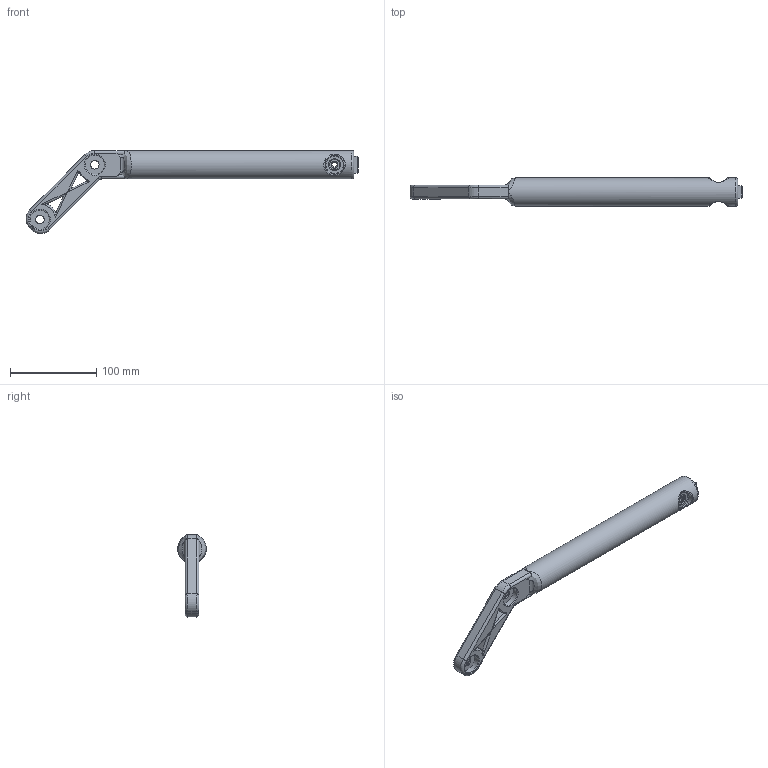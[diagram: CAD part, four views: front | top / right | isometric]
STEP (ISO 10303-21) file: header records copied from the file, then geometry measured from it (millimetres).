
FILE_DESCRIPTION(/* description */ ('STEP AP242 Edition 2','CAx-IF Rec.Pracs.---Representation and Presentation of Product Manufacturing Information (PMI)---4.0---2014-10-13','CAx-IF Rec.Pracs.---3D Tessellated Geometry---0.4---2014-09-14','2;1','CAx-IF Rec.Pracs.---User Defined Attributes---1.5---2016-08-15'),/* implementation_level */ '2;1');
FILE_NAME(/* name */ 'Tarok - Total Assemply - Lower Leg',/* time_stamp */ '2026-05-23T09:32:38Z',/* author */ (''),/* organization */ (''),/* preprocessor_version */ 'ST-DEVELOPER v20',/* originating_system */ 'ONSHAPE BY PTC INC, 1.215',/* authorisation */ ' ');
FILE_SCHEMA (('AP242_MANAGED_MODEL_BASED_3D_ENGINEERING_MIM_LF { 1 0 10303 442 3 1 4 }'));
Length unit declared in the file: metre
Products named in the file (1): Lower Leg
Bounding box: 384.64 x 33 x 96.14 mm (x, y, z)
Volume: 243711.1 mm3; surface area: 55546.7 mm2
Topology: 1 solids, 1 shells, 145 faces, 354 edges, 206 vertices
Faces by surface type: cylinder 55, plane 41, torus 23, bspline 20, cone 6
Full cylindrical faces by diameter (mm): 6 x2, 10 x2, 13 x1, 22.15 x4, 33 x1
Entity records: 5527 total; most frequent: CARTESIAN_POINT 2440, ORIENTED_EDGE 624, DIRECTION 613, EDGE_CURVE 312, AXIS2_PLACEMENT_3D 252, VERTEX_POINT 197, EDGE_LOOP 185, FACE_BOUND 185
